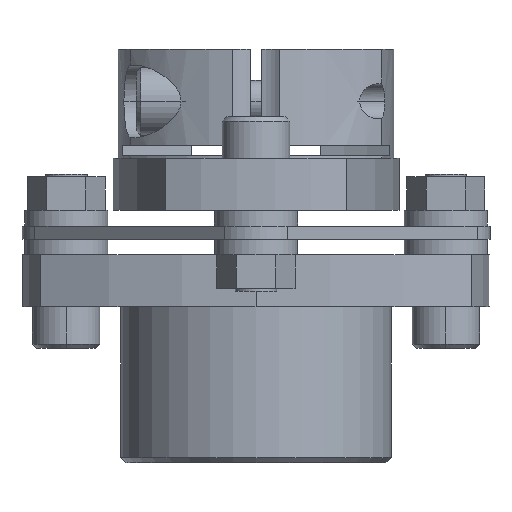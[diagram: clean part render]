
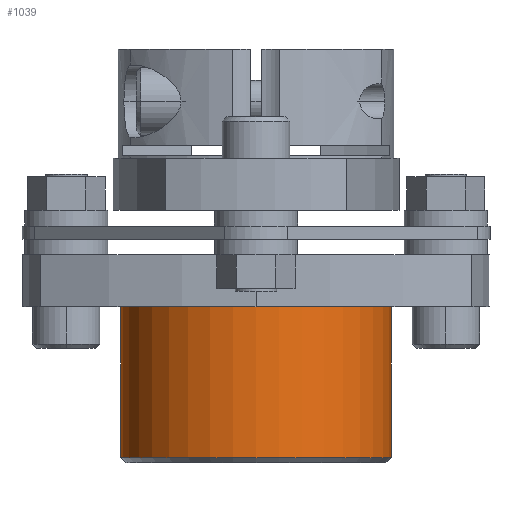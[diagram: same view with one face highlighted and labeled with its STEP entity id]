
A CAD part, front view. The second image highlights one B-rep face of the part: STEP entity #1039.
In plain terms, the highlighted cylindrical face has radius 26 mm (diameter 52 mm), a partial arc.
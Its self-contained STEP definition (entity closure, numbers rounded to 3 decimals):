
#998=CARTESIAN_POINT('',(0.,0.,-24.25));
#999=DIRECTION('',(0.0,0.0,1.0));
#1000=DIRECTION('',(-1.0,0.0,0.0));
#1001=AXIS2_PLACEMENT_3D('',#998,#999,#1000);
#1002=CYLINDRICAL_SURFACE('',#1001,26.0);
#1003=CARTESIAN_POINT('',(-26.,0.,-43.25));
#1004=VERTEX_POINT('',#1003);
#1005=CARTESIAN_POINT('',(-26.,0.,-14.25));
#1006=VERTEX_POINT('',#1005);
#1007=CARTESIAN_POINT('',(-26.,0.,-43.25));
#1008=DIRECTION('',(0.0,0.0,1.0));
#1009=VECTOR('',#1008,29.0);
#1010=LINE('',#1007,#1009);
#1011=EDGE_CURVE('',#1004,#1006,#1010,.T.);
#1012=ORIENTED_EDGE('',*,*,#1011,.F.);
#1013=CARTESIAN_POINT('',(26.,0.,-43.25));
#1014=VERTEX_POINT('',#1013);
#1015=CARTESIAN_POINT('',(0.,0.,-43.25));
#1016=DIRECTION('',(0.0,0.0,-1.0));
#1017=DIRECTION('',(1.0,0.0,0.0));
#1018=AXIS2_PLACEMENT_3D('',#1015,#1016,#1017);
#1019=CIRCLE('',#1018,26.0);
#1020=EDGE_CURVE('',#1014,#1004,#1019,.T.);
#1021=ORIENTED_EDGE('',*,*,#1020,.F.);
#1022=CARTESIAN_POINT('',(26.,0.,-14.25));
#1023=VERTEX_POINT('',#1022);
#1024=CARTESIAN_POINT('',(26.,0.,-14.25));
#1025=DIRECTION('',(0.0,0.0,-1.0));
#1026=VECTOR('',#1025,29.0);
#1027=LINE('',#1024,#1026);
#1028=EDGE_CURVE('',#1023,#1014,#1027,.T.);
#1029=ORIENTED_EDGE('',*,*,#1028,.F.);
#1030=CARTESIAN_POINT('',(0.,0.,-14.25));
#1031=DIRECTION('',(0.0,0.0,1.0));
#1032=DIRECTION('',(-1.0,0.0,0.0));
#1033=AXIS2_PLACEMENT_3D('',#1030,#1031,#1032);
#1034=CIRCLE('',#1033,26.0);
#1035=EDGE_CURVE('',#1006,#1023,#1034,.T.);
#1036=ORIENTED_EDGE('',*,*,#1035,.F.);
#1037=EDGE_LOOP('',(#1012,#1021,#1029,#1036));
#1038=FACE_OUTER_BOUND('',#1037,.T.);
#1039=ADVANCED_FACE('',(#1038),#1002,.T.);
